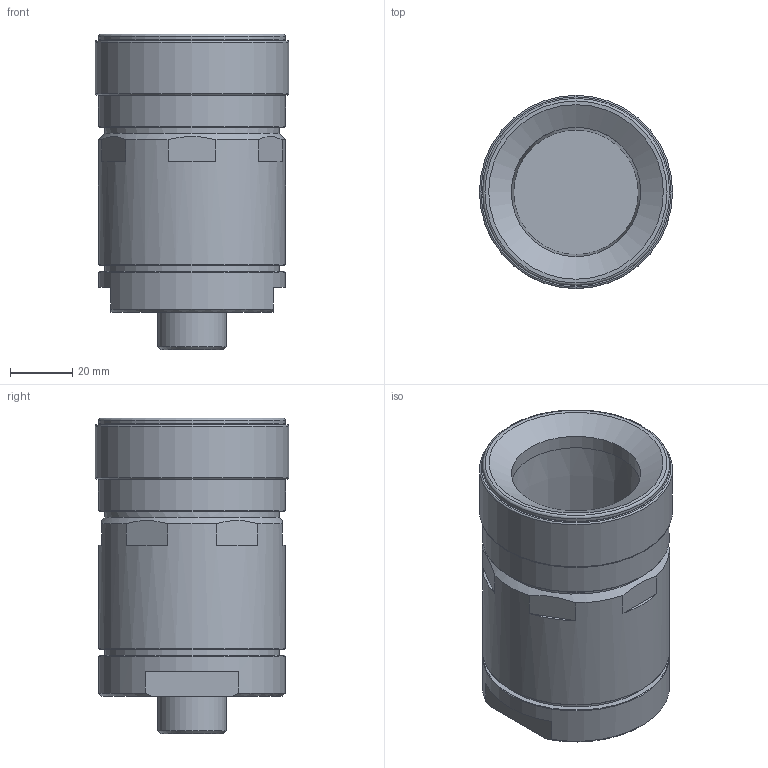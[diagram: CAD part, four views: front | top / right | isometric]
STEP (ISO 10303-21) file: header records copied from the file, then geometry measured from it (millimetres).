
FILE_DESCRIPTION(('STEP AP203'),'1');
FILE_NAME(').stp','2021-06-21T07:56:28',(' '),(' '),'Spatial InterOp 3D',' ',' ');
FILE_SCHEMA(('CONFIG_CONTROL_DESIGN'));
Length unit declared in the file: millimetre
Products named in the file (1): 1
Bounding box: 62 x 62 x 101.2 mm (x, y, z)
Volume: 145314.5 mm3; surface area: 35307 mm2
Topology: 1 solids, 1 shells, 55 faces, 116 edges, 73 vertices
Faces by surface type: plane 28, cylinder 12, cone 10, torus 5
Full cylindrical faces by diameter (mm): 11.7 x1, 17.5 x1, 22 x1, 40 x1, 41.5 x1, 56 x2, 60 x4, 62 x1
Entity records: 1416 total; most frequent: CARTESIAN_POINT 280, DIRECTION 242, ORIENTED_EDGE 176, AXIS2_PLACEMENT_3D 108, EDGE_LOOP 90, EDGE_CURVE 88, FACE_OUTER_BOUND 72, VERTEX_POINT 70
